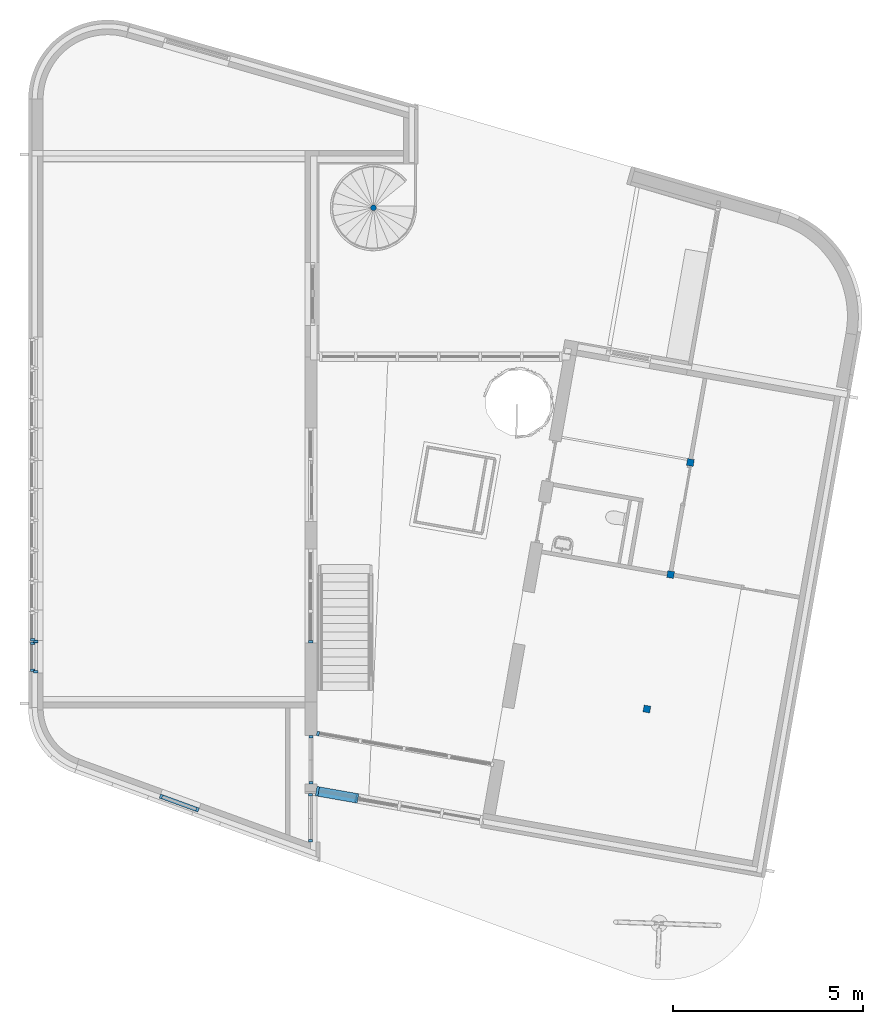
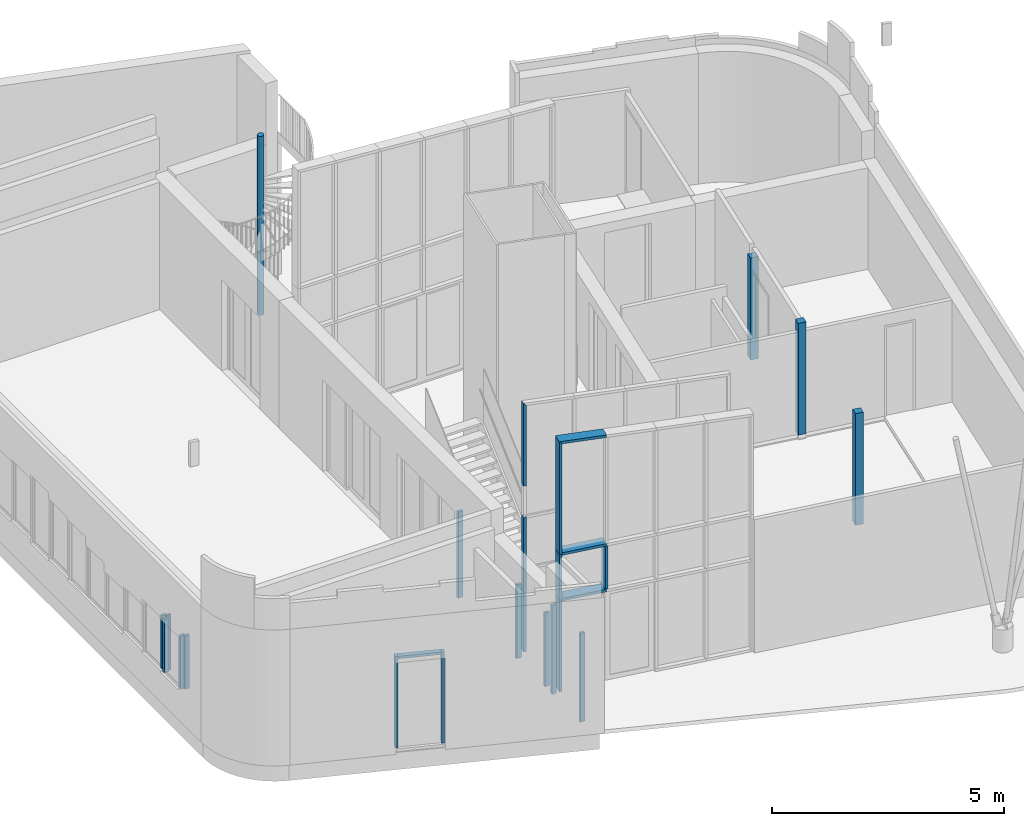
# One storey, part 1 of 21: 24 members, 4 columns, 10 elements without a shape of their own.
"""IFC2X3 building model written with IfcOpenShell, lengths in millimetres."""

from ifc_helpers import new_model, entity, si_unit, converted_unit, derived_unit, direction, frame, frame_2d, origin, origin_2d_with_axis, place, context, subcontext, project, spatial, polyline, rectangle, circle, outline, extrude, clip, halfspace, source, transform, mapped, material, type_object, type_shapes, element, aggregate, save


model = new_model("IFC2X3")

# Units and contexts
model_context = context("Model", 3, precision=0.01, world=origin(), true_north=direction((6.12303176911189e-17, 1.0)))
body_context = subcontext(model_context, "Body", "Model", "MODEL_VIEW")
ifc_project = project(units=[si_unit("LENGTHUNIT", "METRE", prefix="MILLI"), si_unit("AREAUNIT", "SQUARE_METRE"), si_unit("VOLUMEUNIT", "CUBIC_METRE"), converted_unit("PLANEANGLEUNIT", "DEGREE", entity("IfcRatioMeasure", 0.0174532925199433), si_unit("PLANEANGLEUNIT", "RADIAN"), dimensions=[0, 0, 0, 0, 0, 0, 0]), si_unit("MASSUNIT", "GRAM", prefix="KILO"), derived_unit("MASSDENSITYUNIT", [(si_unit("MASSUNIT", "GRAM", prefix="KILO"), 1), (si_unit("LENGTHUNIT", "METRE"), -3)]), si_unit("TIMEUNIT", "SECOND"), si_unit("FREQUENCYUNIT", "HERTZ"), si_unit("THERMODYNAMICTEMPERATUREUNIT", "DEGREE_CELSIUS"), derived_unit("THERMALTRANSMITTANCEUNIT", [(si_unit("MASSUNIT", "GRAM", prefix="KILO"), 1), (si_unit("THERMODYNAMICTEMPERATUREUNIT", "KELVIN"), -1), (si_unit("TIMEUNIT", "SECOND"), -3)]), derived_unit("VOLUMETRICFLOWRATEUNIT", [(si_unit("LENGTHUNIT", "METRE"), 3), (si_unit("TIMEUNIT", "SECOND"), -1)]), si_unit("ELECTRICCURRENTUNIT", "AMPERE"), si_unit("ELECTRICVOLTAGEUNIT", "VOLT"), si_unit("POWERUNIT", "WATT"), si_unit("FORCEUNIT", "NEWTON", prefix="KILO"), si_unit("ILLUMINANCEUNIT", "LUX"), si_unit("LUMINOUSFLUXUNIT", "LUMEN"), si_unit("LUMINOUSINTENSITYUNIT", "CANDELA"), derived_unit("USERDEFINED", [(si_unit("MASSUNIT", "GRAM", prefix="KILO"), -1), (si_unit("LENGTHUNIT", "METRE"), -2), (si_unit("TIMEUNIT", "SECOND"), 3), (si_unit("LUMINOUSFLUXUNIT", "LUMEN"), 1)]), derived_unit("LINEARVELOCITYUNIT", [(si_unit("LENGTHUNIT", "METRE"), 1), (si_unit("TIMEUNIT", "SECOND"), -1)]), si_unit("PRESSUREUNIT", "PASCAL"), derived_unit("USERDEFINED", [(si_unit("LENGTHUNIT", "METRE"), -2), (si_unit("MASSUNIT", "GRAM", prefix="KILO"), 1), (si_unit("TIMEUNIT", "SECOND"), -2)])], contexts=[model_context])

# Site, building, storey
site_placement = place(None, origin())
site = spatial("IfcSite", under=ifc_project, at=site_placement, Name="<Kadaster Gemeente>;<Kadaster nummer>;<Kadaster sectie>", CompositionType="ELEMENT")
building_placement = place(site_placement, origin())
building = spatial("IfcBuilding", under=site, at=building_placement, Name="JRCZ Middelburg", CompositionType="ELEMENT")
storey_placement = place(building_placement, origin())
storey = spatial("IfcBuildingStorey", under=building, at=storey_placement, Name="00 begane grond", CompositionType="ELEMENT", Elevation=0.0)

# Columns
ifc_material_1 = material(Name="Softwood, Lumber")
column_type_1 = type_object("IfcColumnType", Name="180x180", PredefinedType="COLUMN")
shared_shape_1 = source(origin(), body_context, "Body", "SweptSolid", [
    extrude(rectangle(XDim=179.999999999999, YDim=180.0, at=frame_2d((-5.25801624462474e-13, -9.2370555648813e-14), x_axis=(1.0, 0.0))), frame((26065.8161517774, 9819.7630392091, 0.0), z_axis=(0.0, 0.0, 1.0), x_axis=(0.173648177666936, 0.984807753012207, 0.0)), (0.0, 0.0, 1.0), 2936.0),
])
type_shapes(column_type_1, [shared_shape_1])
column_1_placement = place(storey_placement, origin())
element("IfcColumn", 1, at=column_1_placement, inside=storey, type_object=column_type_1, material=ifc_material_1, Name="M_Timber-Column:180x180", ObjectType="M_Timber-Column:180x180", context=body_context, shape_type="MappedRepresentation", body=[
    mapped(shared_shape_1, transform((0.0, 0.0, 0.0), scale=1.0)),
])
column_type_2 = type_object("IfcColumnType", Name="180x180", PredefinedType="COLUMN")
shared_shape_2 = source(origin(), body_context, "Body", "SweptSolid", [
    extrude(rectangle(XDim=179.999999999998, YDim=180.0, at=frame_2d((7.53175299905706e-13, -4.2632564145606e-12), x_axis=(1.0, 0.0))), frame((26690.9495913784, 13365.070950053, 0.0), z_axis=(0.0, 0.0, 1.0), x_axis=(0.173648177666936, 0.984807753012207, 0.0)), (0.0, 0.0, 1.0), 2936.0),
])
type_shapes(column_type_2, [shared_shape_2])
column_2_placement = place(storey_placement, origin())
element("IfcColumn", 2, at=column_2_placement, inside=storey, type_object=column_type_2, material=ifc_material_1, Name="M_Timber-Column:180x180", ObjectType="M_Timber-Column:180x180", context=body_context, shape_type="MappedRepresentation", body=[
    mapped(shared_shape_2, transform((0.0, 0.0, 0.0), scale=1.0)),
])
column_type_3 = type_object("IfcColumnType", Name="180x180", PredefinedType="COLUMN")
shared_shape_3 = source(origin(), body_context, "Body", "SweptSolid", [
    extrude(rectangle(XDim=180.0, YDim=180.0, at=origin_2d_with_axis()), frame((0.0, 0.0, 0.0), z_axis=(0.0, 0.0, 1.0), x_axis=(0.0, -1.0, 0.0)), (0.0, 0.0, 1.0), 2680.0),
])
type_shapes(column_type_3, [shared_shape_3])
column_3_placement = place(storey_placement, frame((27211.8941243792, 16319.4942090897, 0.0), z_axis=(0.0, 0.0, 1.0), x_axis=(0.984807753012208, -0.173648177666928, 0.0)))
element("IfcColumn", 3, at=column_3_placement, inside=storey, type_object=column_type_3, material=ifc_material_1, Name="M_Timber-Column:180x180", ObjectType="M_Timber-Column:180x180", context=body_context, shape_type="MappedRepresentation", body=[
    mapped(shared_shape_3, transform((0.0, 0.0, 0.0), scale=1.0)),
])
column_type_4 = type_object("IfcColumnType", Name="RBM_24_ST_kolom_wenteltrap", PredefinedType="COLUMN")
shared_shape_4 = source(origin(), body_context, "Body", "SweptSolid", [
    extrude(circle(Radius=75.0, at=frame_2d((-4.22994972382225e-15, 1.24171240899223e-13), x_axis=(1.0, 0.0))), frame((0.0, 0.0, 0.0), z_axis=(0.0, 0.0, 1.0), x_axis=(-1.0, 0.0, 0.0)), (0.0, 0.0, 1.0), 4700.0),
])
type_shapes(column_type_4, [shared_shape_4])
column_4_placement = place(storey_placement, frame((18857.6425428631, 23034.0008011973, 0.0)))
element("IfcColumn", 4, at=column_4_placement, inside=storey, type_object=column_type_4, Name="RBM_74_kolom_wenteltrap:RBM_24_ST_kolom_wenteltrap", ObjectType="RBM_74_kolom_wenteltrap:RBM_24_ST_kolom_wenteltrap", context=body_context, shape_type="MappedRepresentation", body=[
    mapped(shared_shape_4, transform((0.0, 0.0, 0.0), scale=1.0)),
])

# Curtain wall, members
curtain_wall_type_1 = type_object("IfcCurtainWallType", Name="Curtain Wall:vliesgevel B", PredefinedType="NOTDEFINED")
curtain_wall_1_placement = place(storey_placement, origin())
curtain_wall_1 = element("IfcCurtainWall", 5, at=curtain_wall_1_placement, inside=storey, type_object=curtain_wall_type_1, Name="Curtain Wall:vliesgevel B", ObjectType="Curtain Wall:vliesgevel B")
ifc_material_2 = material(Name="RBM_i2_binnenkozijn")
member_type_1 = type_object("IfcMemberType", Name="32_CWM_067x114", PredefinedType="MEMBER")
shared_shape_5 = source(origin(), body_context, "Body", "Clipping", [
    clip(extrude(rectangle(XDim=113.999999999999, YDim=67.0, at=origin_2d_with_axis()), frame((-33.5, 0.0, -2177.66666666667), z_axis=(0.0, 0.0, 1.0), x_axis=(0.0, -1.0, 0.0)), (0.0, 0.0, 1.0), 2177.66666666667), halfspace(frame((0.0, -304.799999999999, 0.0), z_axis=(-0.73233970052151, 0.0, 0.680939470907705), x_axis=(-0.680939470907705, 0.0, -0.73233970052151)), False)),
])
type_shapes(member_type_1, [shared_shape_5])
member_1_placement = place(storey_placement, frame((17362.2500000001, 9178.37735087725, 6600.0), z_axis=(0.0, 0.0, 1.0), x_axis=(-0.984807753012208, 0.173648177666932, 0.0)))
member_1 = element("IfcMember", 6, at=member_1_placement, type_object=member_type_1, material=ifc_material_2, Name="Rectangular Mullion:32_CWM_067x114", ObjectType="Rectangular Mullion:32_CWM_067x114", context=body_context, shape_type="MappedRepresentation", body=[
    mapped(shared_shape_5, transform((0.0, 0.0, 0.0), scale=1.0)),
])
member_type_2 = type_object("IfcMemberType", Name="32_CWM_067x114", PredefinedType="MEMBER")
shared_shape_6 = source(origin(), body_context, "Body", "SweptSolid", [
    extrude(rectangle(XDim=113.999999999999, YDim=67.0, at=origin_2d_with_axis()), frame((-33.5, 0.0, -2177.66666666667), z_axis=(0.0, 0.0, 1.0), x_axis=(0.0, -1.0, 0.0)), (0.0, 0.0, 1.0), 2177.66666666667),
])
type_shapes(member_type_2, [shared_shape_6])
member_2_placement = place(storey_placement, frame((17362.2500000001, 9178.37735087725, 2244.66666666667), z_axis=(0.0, 0.0, 1.0), x_axis=(-0.984807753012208, 0.173648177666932, 0.0)))
member_2 = element("IfcMember", 7, at=member_2_placement, type_object=member_type_2, material=ifc_material_2, Name="Rectangular Mullion:32_CWM_067x114", ObjectType="Rectangular Mullion:32_CWM_067x114", context=body_context, shape_type="MappedRepresentation", body=[
    mapped(shared_shape_6, transform((0.0, 0.0, 0.0), scale=1.0)),
])
member_type_3 = type_object("IfcMemberType", Name="32_CWM_067x114", PredefinedType="MEMBER")
shared_shape_7 = source(origin(), body_context, "Body", "SweptSolid", [
    extrude(rectangle(XDim=113.999999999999, YDim=67.0, at=origin_2d_with_axis()), frame((-33.5, 0.0, -1357.66666666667), z_axis=(0.0, 0.0, 1.0), x_axis=(0.0, -1.0, 0.0)), (0.0, 0.0, 1.0), 1357.66666666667),
])
type_shapes(member_type_3, [shared_shape_7])
member_3_placement = place(storey_placement, frame((17362.2500000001, 9178.37735087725, 3602.33333333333), z_axis=(0.0, 0.0, 1.0), x_axis=(-0.984807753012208, 0.173648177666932, 0.0)))
member_3 = element("IfcMember", 8, at=member_3_placement, type_object=member_type_3, material=ifc_material_2, Name="Rectangular Mullion:32_CWM_067x114", ObjectType="Rectangular Mullion:32_CWM_067x114", context=body_context, shape_type="MappedRepresentation", body=[
    mapped(shared_shape_7, transform((0.0, 0.0, 0.0), scale=1.0)),
])
aggregate(curtain_wall_1, [member_1, member_2, member_3])

# Curtain wall, member
curtain_wall_type_2 = type_object("IfcCurtainWallType", Name="Curtain Wall:NLRS_32_CW_067x114", PredefinedType="NOTDEFINED")
curtain_wall_2_placement = place(storey_placement, origin())
curtain_wall_2 = element("IfcCurtainWall", 9, at=curtain_wall_2_placement, inside=storey, type_object=curtain_wall_type_2, Name="Curtain Wall:NLRS_32_CW_067x114", ObjectType="Curtain Wall:NLRS_32_CW_067x114")
member_type_4 = type_object("IfcMemberType", Name="32_CWM_067x114", PredefinedType="MEMBER")
shared_shape_8 = source(origin(), body_context, "Body", "SweptSolid", [
    extrude(rectangle(XDim=113.999999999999, YDim=67.0, at=origin_2d_with_axis()), frame((-33.5, 0.0, -2266.0), z_axis=(0.0, 0.0, 1.0), x_axis=(0.0, -1.0, 0.0)), (0.0, 0.0, 1.0), 2266.0),
])
type_shapes(member_type_4, [shared_shape_8])
member_4_placement = place(storey_placement, frame((17203.0, 11566.4999996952, 2333.0), z_axis=(0.0, 0.0, 1.0), x_axis=(0.0, -1.0, 0.0)))
member_4 = element("IfcMember", 10, at=member_4_placement, type_object=member_type_4, material=ifc_material_2, Name="Rectangular Mullion:32_CWM_067x114", ObjectType="Rectangular Mullion:32_CWM_067x114", context=body_context, shape_type="MappedRepresentation", body=[
    mapped(shared_shape_8, transform((0.0, 0.0, 0.0), scale=1.0)),
])
aggregate(curtain_wall_2, [member_4])

curtain_wall_type_3 = type_object("IfcCurtainWallType", Name="Curtain Wall:NLRS_32_CW_067x114", PredefinedType="NOTDEFINED")
curtain_wall_3_placement = place(storey_placement, origin())
curtain_wall_3 = element("IfcCurtainWall", 11, at=curtain_wall_3_placement, inside=storey, type_object=curtain_wall_type_3, Name="Curtain Wall:NLRS_32_CW_067x114", ObjectType="Curtain Wall:NLRS_32_CW_067x114")
member_type_5 = type_object("IfcMemberType", Name="32_CWM_067x114", PredefinedType="MEMBER")
shared_shape_9 = source(origin(), body_context, "Body", "SweptSolid", [
    extrude(rectangle(XDim=113.999999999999, YDim=67.0, at=origin_2d_with_axis()), frame((-33.5, 0.0, -2333.0), z_axis=(0.0, 0.0, 1.0), x_axis=(0.0, -1.0, 0.0)), (0.0, 0.0, 1.0), 2333.0),
])
type_shapes(member_type_5, [shared_shape_9])
member_5_placement = place(storey_placement, frame((17200.0, 6311.96216345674, 2333.0), z_axis=(0.0, 0.0, 1.0), x_axis=(0.0, -1.0, 0.0)))
member_5 = element("IfcMember", 12, at=member_5_placement, type_object=member_type_5, material=ifc_material_2, Name="Rectangular Mullion:32_CWM_067x114", ObjectType="Rectangular Mullion:32_CWM_067x114", context=body_context, shape_type="MappedRepresentation", body=[
    mapped(shared_shape_9, transform((0.0, 0.0, 0.0), scale=1.0)),
])

# Curtain wall, members
curtain_wall_4_placement = place(storey_placement, origin())
curtain_wall_4 = element("IfcCurtainWall", 13, at=curtain_wall_4_placement, inside=storey, type_object=curtain_wall_type_2, Name="Curtain Wall:NLRS_32_CW_067x114", ObjectType="Curtain Wall:NLRS_32_CW_067x114")
member_type_6 = type_object("IfcMemberType", Name="32_CWM_067x114", PredefinedType="MEMBER")
shared_shape_10 = source(origin(), body_context, "Body", "SweptSolid", [
    extrude(rectangle(XDim=113.999999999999, YDim=67.0, at=origin_2d_with_axis()), frame((-33.5, 0.0, -1933.0), z_axis=(0.0, 0.0, 1.0), x_axis=(0.0, -1.0, 0.0)), (0.0, 0.0, 1.0), 1933.0),
])
type_shapes(member_type_6, [shared_shape_10])
member_6_placement = place(storey_placement, frame((17209.2500000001, 9128.74078602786, 0.0), z_axis=(0.0, 0.0, -1.0), x_axis=(0.0, 1.0, 0.0)))
member_6 = element("IfcMember", 14, at=member_6_placement, type_object=member_type_6, material=ifc_material_2, Name="Rectangular Mullion:32_CWM_067x114", ObjectType="Rectangular Mullion:32_CWM_067x114", context=body_context, shape_type="MappedRepresentation", body=[
    mapped(shared_shape_10, transform((0.0, 0.0, 0.0), scale=1.0)),
])
member_type_7 = type_object("IfcMemberType", Name="32_CWM_067x114", PredefinedType="MEMBER")
shared_shape_11 = source(origin(), body_context, "Body", "SweptSolid", [
    extrude(rectangle(XDim=113.999999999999, YDim=67.0, at=origin_2d_with_axis()), frame((-33.5, 0.0, -1933.0), z_axis=(0.0, 0.0, 1.0), x_axis=(0.0, -1.0, 0.0)), (0.0, 0.0, 1.0), 1933.0),
])
type_shapes(member_type_7, [shared_shape_11])
member_7_placement = place(storey_placement, frame((17209.2500000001, 7848.74078602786, 1933.0), z_axis=(0.0, 0.0, 1.0), x_axis=(0.0, -1.0, 0.0)))
member_7 = element("IfcMember", 15, at=member_7_placement, type_object=member_type_7, material=ifc_material_2, Name="Rectangular Mullion:32_CWM_067x114", ObjectType="Rectangular Mullion:32_CWM_067x114", context=body_context, shape_type="MappedRepresentation", body=[
    mapped(shared_shape_11, transform((0.0, 0.0, 0.0), scale=1.0)),
])
aggregate(curtain_wall_4, [member_6, member_7])

curtain_wall_type_4 = type_object("IfcCurtainWallType", Name="Curtain Wall:vliesgevel A", PredefinedType="NOTDEFINED")
curtain_wall_5_placement = place(storey_placement, origin())
curtain_wall_5 = element("IfcCurtainWall", 16, at=curtain_wall_5_placement, inside=storey, type_object=curtain_wall_type_4, Name="Curtain Wall:vliesgevel A", ObjectType="Curtain Wall:vliesgevel A")
ifc_material_3 = material(Name="RBM_a_kozijn licht")
member_type_8 = type_object("IfcMemberType", Name="31_CWM_067x114 vliesgevel", PredefinedType="MEMBER")
shared_shape_12 = source(origin(), body_context, "Body", "SweptSolid", [
    extrude(rectangle(XDim=250.0, YDim=67.0, at=origin_2d_with_axis()), frame((-33.5, -57.0, -1200.0), z_axis=(0.0, 0.0, 1.0), x_axis=(0.0, -1.0, 0.0)), (0.0, 0.0, 1.0), 1200.0),
])
type_shapes(member_type_8, [shared_shape_12])
member_8_placement = place(storey_placement, frame((17357.3594801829, 7712.96365390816, 2400.0), z_axis=(0.0, 0.0, -1.0), x_axis=(-0.984807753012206, 0.173648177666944, 0.0)))
member_8 = element("IfcMember", 17, at=member_8_placement, type_object=member_type_8, material=ifc_material_3, Name="Rectangular Mullion:31_CWM_067x114 vliesgevel", ObjectType="Rectangular Mullion:31_CWM_067x114 vliesgevel", context=body_context, shape_type="MappedRepresentation", body=[
    mapped(shared_shape_12, transform((0.0, 0.0, 0.0), scale=1.0)),
])
member_type_9 = type_object("IfcMemberType", Name="31_CWM_067x114 vliesgevel", PredefinedType="MEMBER")
shared_shape_13 = source(origin(), body_context, "Body", "SweptSolid", [
    extrude(rectangle(XDim=250.0, YDim=67.0, at=origin_2d_with_axis()), frame((0.0, -57.0, -1133.0), z_axis=(0.0, 0.0, 1.0), x_axis=(0.0, -1.0, 0.0)), (0.0, 0.0, 1.0), 1133.0),
])
type_shapes(member_type_9, [shared_shape_13])
member_9_placement = place(storey_placement, frame((18426.5037211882, 7524.44467794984, 2433.5), z_axis=(0.0, 0.0, -1.0), x_axis=(-0.984807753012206, 0.173648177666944, 0.0)))
member_9 = element("IfcMember", 18, at=member_9_placement, type_object=member_type_9, material=ifc_material_3, Name="Rectangular Mullion:31_CWM_067x114 vliesgevel", ObjectType="Rectangular Mullion:31_CWM_067x114 vliesgevel", context=body_context, shape_type="MappedRepresentation", body=[
    mapped(shared_shape_13, transform((0.0, 0.0, 0.0), scale=1.0)),
])

# Member
member_type_10 = type_object("IfcMemberType", Name="32_CWM_067x114", PredefinedType="MEMBER")
shared_shape_14 = source(origin(), body_context, "Body", "SweptSolid", [
    extrude(rectangle(XDim=113.999999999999, YDim=67.0, at=origin_2d_with_axis()), frame((-33.5, 0.0, -2333.0), z_axis=(0.0, 0.0, 1.0), x_axis=(0.0, -1.0, 0.0)), (0.0, 0.0, 1.0), 2333.0),
])
type_shapes(member_type_10, [shared_shape_14])
member_10_placement = place(storey_placement, frame((17200.0, 7591.96216345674, 0.0), z_axis=(0.0, 0.0, -1.0), x_axis=(0.0, 1.0, 0.0)))
member_10 = element("IfcMember", 19, at=member_10_placement, type_object=member_type_10, material=ifc_material_2, Name="Rectangular Mullion:32_CWM_067x114", ObjectType="Rectangular Mullion:32_CWM_067x114", context=body_context, shape_type="MappedRepresentation", body=[
    mapped(shared_shape_14, transform((0.0, 0.0, 0.0), scale=1.0)),
])

aggregate(curtain_wall_3, [member_10, member_5])

# Curtain wall, members
curtain_wall_type_5 = type_object("IfcCurtainWallType", Name="Curtain Wall:NLRS_31_CW_Ontwerpkozijn 067x114", PredefinedType="NOTDEFINED")
curtain_wall_6_placement = place(storey_placement, origin())
curtain_wall_6 = element("IfcCurtainWall", 20, at=curtain_wall_6_placement, inside=storey, type_object=curtain_wall_type_5, Name="Curtain Wall:NLRS_31_CW_Ontwerpkozijn 067x114", ObjectType="Curtain Wall:NLRS_31_CW_Ontwerpkozijn 067x114")
ifc_material_4 = material(Name="RBM_a_kozijn")
member_type_11 = type_object("IfcMemberType", Name="31_CWM_067x114", PredefinedType="MEMBER")
shared_shape_15 = source(origin(), body_context, "Body", "SweptSolid", [
    extrude(rectangle(XDim=113.999999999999, YDim=67.0, at=origin_2d_with_axis()), frame((-33.5, 57.0, -950.0), z_axis=(0.0, 0.0, 1.0), x_axis=(0.0, -1.0, 0.0)), (0.0, 0.0, 1.0), 949.999999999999),
])
type_shapes(member_type_11, [shared_shape_15])
member_11_placement = place(storey_placement, frame((14204.9653132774, 7232.42985900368, 2400.0), z_axis=(0.939692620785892, -0.342020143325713, 0.0), x_axis=(0.0, 0.0, 1.0)))
member_11 = element("IfcMember", 21, at=member_11_placement, type_object=member_type_11, material=ifc_material_4, Name="Rectangular Mullion:31_CWM_067x114", ObjectType="Rectangular Mullion:31_CWM_067x114", context=body_context, shape_type="MappedRepresentation", body=[
    mapped(shared_shape_15, transform((0.0, 0.0, 0.0), scale=1.0)),
])
member_type_12 = type_object("IfcMemberType", Name="31_CWM_067x114", PredefinedType="MEMBER")
shared_shape_16 = source(origin(), body_context, "Body", "SweptSolid", [
    extrude(rectangle(XDim=113.999999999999, YDim=67.0, at=origin_2d_with_axis()), frame((-33.5, 57.0, -2400.0), z_axis=(0.0, 0.0, 1.0), x_axis=(0.0, -1.0, 0.0)), (0.0, 0.0, 1.0), 2400.0),
])
type_shapes(member_type_12, [shared_shape_16])
member_12_placement = place(storey_placement, frame((14267.92471887, 7209.51450940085, 0.0), z_axis=(0.0, 0.0, -1.0), x_axis=(0.939692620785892, -0.342020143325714, 0.0)))
member_12 = element("IfcMember", 22, at=member_12_placement, type_object=member_type_12, material=ifc_material_4, Name="Rectangular Mullion:31_CWM_067x114", ObjectType="Rectangular Mullion:31_CWM_067x114", context=body_context, shape_type="MappedRepresentation", body=[
    mapped(shared_shape_16, transform((0.0, 0.0, 0.0), scale=1.0)),
])
member_type_13 = type_object("IfcMemberType", Name="31_CWM_067x114", PredefinedType="MEMBER")
shared_shape_17 = source(origin(), body_context, "Body", "SweptSolid", [
    extrude(rectangle(XDim=113.999999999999, YDim=67.0, at=origin_2d_with_axis()), frame((-33.5, 57.0, -2400.0), z_axis=(0.0, 0.0, 1.0), x_axis=(0.0, -1.0, 0.0)), (0.0, 0.0, 1.0), 2400.0),
])
type_shapes(member_type_13, [shared_shape_17])
member_13_placement = place(storey_placement, frame((13249.2979179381, 7580.26434476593, 2400.0), z_axis=(0.0, 0.0, 1.0), x_axis=(-0.939692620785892, 0.342020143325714, 0.0)))
member_13 = element("IfcMember", 23, at=member_13_placement, type_object=member_type_13, material=ifc_material_4, Name="Rectangular Mullion:31_CWM_067x114", ObjectType="Rectangular Mullion:31_CWM_067x114", context=body_context, shape_type="MappedRepresentation", body=[
    mapped(shared_shape_17, transform((0.0, 0.0, 0.0), scale=1.0)),
])
aggregate(curtain_wall_6, [member_11, member_12, member_13])

curtain_wall_type_6 = type_object("IfcCurtainWallType", Name="Curtain Wall:NLRS_31_CW_hsb rek 63x196mm h.o.h. 800mm", PredefinedType="NOTDEFINED")
curtain_wall_7_placement = place(storey_placement, origin())
curtain_wall_7 = element("IfcCurtainWall", 24, at=curtain_wall_7_placement, inside=storey, type_object=curtain_wall_type_6, Name="Curtain Wall:NLRS_31_CW_hsb rek 63x196mm h.o.h. 800mm", ObjectType="Curtain Wall:NLRS_31_CW_hsb rek 63x196mm h.o.h. 800mm")
member_type_14 = type_object("IfcMemberType", Name="32_CWM_067x114", PredefinedType="MEMBER")
shared_shape_18 = source(origin(), body_context, "Body", "SweptSolid", [
    extrude(rectangle(XDim=66.9999999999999, YDim=114.0, at=frame_2d((1.08357767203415e-12, 1.08002495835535e-12), x_axis=(1.0, 0.0))), frame((9956.0, 11598.0, 700.0), z_axis=(0.0, 0.0, 1.0), x_axis=(0.0, -1.0, 0.0)), (0.0, 0.0, 1.0), 1400.0),
])
type_shapes(member_type_14, [shared_shape_18])
member_14_placement = place(storey_placement, origin())
member_14 = element("IfcMember", 25, at=member_14_placement, type_object=member_type_14, material=ifc_material_2, Name="Rectangular Mullion:32_CWM_067x114", ObjectType="Rectangular Mullion:32_CWM_067x114", context=body_context, shape_type="MappedRepresentation", body=[
    mapped(shared_shape_18, transform((0.0, 0.0, 0.0), scale=1.0)),
])
member_type_15 = type_object("IfcMemberType", Name="32_CWM_067x114", PredefinedType="MEMBER")
shared_shape_19 = source(origin(), body_context, "Body", "SweptSolid", [
    extrude(rectangle(XDim=66.9999999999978, YDim=114.0, at=frame_2d((1.08357767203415e-12, 1.08002495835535e-12), x_axis=(1.0, 0.0))), frame((9956.0, 10802.0, 700.0), z_axis=(0.0, 0.0, 1.0), x_axis=(0.0, -1.0, 0.0)), (0.0, 0.0, 1.0), 1400.0),
])
type_shapes(member_type_15, [shared_shape_19])
member_15_placement = place(storey_placement, origin())
member_15 = element("IfcMember", 26, at=member_15_placement, type_object=member_type_15, material=ifc_material_2, Name="Rectangular Mullion:32_CWM_067x114", ObjectType="Rectangular Mullion:32_CWM_067x114", context=body_context, shape_type="MappedRepresentation", body=[
    mapped(shared_shape_19, transform((0.0, 0.0, 0.0), scale=1.0)),
])
aggregate(curtain_wall_7, [member_14, member_15])

curtain_wall_type_7 = type_object("IfcCurtainWallType", Name="Curtain Wall:NLRS_31_CW_Ontwerpkozijn 067x114 2", PredefinedType="NOTDEFINED")
curtain_wall_8_placement = place(storey_placement, origin())
curtain_wall_8 = element("IfcCurtainWall", 27, at=curtain_wall_8_placement, inside=storey, type_object=curtain_wall_type_7, Name="Curtain Wall:NLRS_31_CW_Ontwerpkozijn 067x114 2", ObjectType="Curtain Wall:NLRS_31_CW_Ontwerpkozijn 067x114 2")
member_type_16 = type_object("IfcMemberType", Name="31_CWM_067x114", PredefinedType="MEMBER")
shared_shape_20 = source(origin(), body_context, "Body", "SweptSolid", [
    extrude(outline(polyline([(-37.0, -65.3333333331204), (30.0, -65.3333333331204), (30.0, 16.6666666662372), (7.0, 16.6666666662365), (7.0, 48.6666666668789), (-37.0, 48.6666666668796), (-37.0, -65.3333333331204)])), frame((9882.33333333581, 10842.4999999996, 700.0), z_axis=(0.0, 0.0, 1.0), x_axis=(0.0, -1.0, 0.0)), (0.0, 0.0, 1.0), 1400.0),
])
type_shapes(member_type_16, [shared_shape_20])
member_16_placement = place(storey_placement, origin())
member_16 = element("IfcMember", 28, at=member_16_placement, type_object=member_type_16, material=ifc_material_4, Name="Rectangular Mullion:31_CWM_067x114", ObjectType="Rectangular Mullion:31_CWM_067x114", context=body_context, shape_type="MappedRepresentation", body=[
    mapped(shared_shape_20, transform((0.0, 0.0, 0.0), scale=1.0)),
])
member_type_17 = type_object("IfcMemberType", Name="31_CWM_067x114", PredefinedType="MEMBER")
shared_shape_21 = source(origin(), body_context, "Body", "SweptSolid", [
    extrude(outline(polyline([(-30.0, -65.3333333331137), (37.0, -65.3333333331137), (37.0, 48.6666666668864), (-7.0, 48.6666666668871), (-7.0, 16.6666666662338), (-30.0, 16.6666666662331), (-30.0, -65.3333333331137)])), frame((9882.33333333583, 11557.4999999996, 700.0), z_axis=(0.0, 0.0, 1.0), x_axis=(0.0, -1.0, 0.0)), (0.0, 0.0, 1.0), 1400.0),
])
type_shapes(member_type_17, [shared_shape_21])
member_17_placement = place(storey_placement, origin())
member_17 = element("IfcMember", 29, at=member_17_placement, type_object=member_type_17, material=ifc_material_4, Name="Rectangular Mullion:31_CWM_067x114", ObjectType="Rectangular Mullion:31_CWM_067x114", context=body_context, shape_type="MappedRepresentation", body=[
    mapped(shared_shape_21, transform((0.0, 0.0, 0.0), scale=1.0)),
])
aggregate(curtain_wall_8, [member_16, member_17])

# Curtain wall, member
curtain_wall_9_placement = place(storey_placement, origin())
curtain_wall_9 = element("IfcCurtainWall", 30, at=curtain_wall_9_placement, inside=storey, type_object=curtain_wall_type_6, Name="Curtain Wall:NLRS_31_CW_hsb rek 63x196mm h.o.h. 800mm", ObjectType="Curtain Wall:NLRS_31_CW_hsb rek 63x196mm h.o.h. 800mm")
member_type_18 = type_object("IfcMemberType", Name="32_CWM_067x114", PredefinedType="MEMBER")
shared_shape_22 = source(origin(), body_context, "Body", "SweptSolid", [
    extrude(rectangle(XDim=66.9999999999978, YDim=114.0, at=frame_2d((1.08357767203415e-12, 1.08002495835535e-12), x_axis=(1.0, 0.0))), frame((9956.0, 11602.0, 750.0), z_axis=(0.0, 0.0, 1.0), x_axis=(0.0, -1.0, 0.0)), (0.0, 0.0, 1.0), 1400.0),
])
type_shapes(member_type_18, [shared_shape_22])
member_18_placement = place(storey_placement, origin())
member_18 = element("IfcMember", 31, at=member_18_placement, type_object=member_type_18, material=ifc_material_2, Name="Rectangular Mullion:32_CWM_067x114", ObjectType="Rectangular Mullion:32_CWM_067x114", context=body_context, shape_type="MappedRepresentation", body=[
    mapped(shared_shape_22, transform((0.0, 0.0, 0.0), scale=1.0)),
])
aggregate(curtain_wall_9, [member_18])

curtain_wall_10_placement = place(storey_placement, origin())
curtain_wall_10 = element("IfcCurtainWall", 32, at=curtain_wall_10_placement, inside=storey, type_object=curtain_wall_type_7, Name="Curtain Wall:NLRS_31_CW_Ontwerpkozijn 067x114 2", ObjectType="Curtain Wall:NLRS_31_CW_Ontwerpkozijn 067x114 2")
member_type_19 = type_object("IfcMemberType", Name="31_CWM_067x114", PredefinedType="MEMBER")
shared_shape_23 = source(origin(), body_context, "Body", "SweptSolid", [
    extrude(rectangle(XDim=66.9999999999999, YDim=114.0, at=frame_2d((1.08357767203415e-12, -1.08002495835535e-12), x_axis=(1.0, 0.0))), frame((9874.0, 11646.0, 750.0), z_axis=(0.0, 0.0, 1.0), x_axis=(0.0, -1.0, 0.0)), (0.0, 0.0, 1.0), 1400.0),
])
type_shapes(member_type_19, [shared_shape_23])
member_19_placement = place(storey_placement, origin())
member_19 = element("IfcMember", 33, at=member_19_placement, type_object=member_type_19, material=ifc_material_4, Name="Rectangular Mullion:31_CWM_067x114", ObjectType="Rectangular Mullion:31_CWM_067x114", context=body_context, shape_type="MappedRepresentation", body=[
    mapped(shared_shape_23, transform((0.0, 0.0, 0.0), scale=1.0)),
])
aggregate(curtain_wall_10, [member_19])

# Member
member_type_20 = type_object("IfcMemberType", Name="31_CWM_067x114 vliesgevel", PredefinedType="MEMBER")
shared_shape_24 = source(origin(), body_context, "Body", "Clipping", [
    clip(extrude(rectangle(XDim=250.0, YDim=67.0, at=origin_2d_with_axis()), frame((-33.5, -57.0, -1088.68658802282), z_axis=(0.0, 0.0, 1.0), x_axis=(0.0, -1.0, 0.0)), (0.0, 0.0, 1.0), 1088.68658802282), halfspace(frame((0.0, -304.8, 0.0), z_axis=(-0.733072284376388, 0.0, 0.680150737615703), x_axis=(-0.680150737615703, 0.0, -0.733072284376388)), False)),
])
type_shapes(member_type_20, [shared_shape_24])
member_20_placement = place(storey_placement, frame((17357.3594801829, 7712.96365390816, 6564.57479505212), z_axis=(-0.982049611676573, 0.173161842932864, 0.0747899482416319), x_axis=(0.0736537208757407, -0.0129871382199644, 0.997199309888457)))
member_20 = element("IfcMember", 34, at=member_20_placement, type_object=member_type_20, material=ifc_material_3, Name="Rectangular Mullion:31_CWM_067x114 vliesgevel", ObjectType="Rectangular Mullion:31_CWM_067x114 vliesgevel", context=body_context, shape_type="MappedRepresentation", body=[
    mapped(shared_shape_24, transform((0.0, 0.0, 0.0), scale=1.0)),
])

member_type_21 = type_object("IfcMemberType", Name="31_CWM_067x114 vliesgevel", PredefinedType="MEMBER")
shared_shape_25 = source(origin(), body_context, "Body", "SweptSolid", [
    extrude(rectangle(XDim=250.0, YDim=67.0, at=origin_2d_with_axis()), frame((-33.5, -57.0, -2400.0), z_axis=(0.0, 0.0, 1.0), x_axis=(0.0, -1.0, 0.0)), (0.0, 0.0, 1.0), 2400.0),
])
type_shapes(member_type_21, [shared_shape_25])
member_21_placement = place(storey_placement, frame((17357.3594801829, 7712.96365390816, 0.0), z_axis=(0.0, 0.0, -1.0), x_axis=(-0.984807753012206, 0.173648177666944, 0.0)))
member_21 = element("IfcMember", 35, at=member_21_placement, type_object=member_type_21, material=ifc_material_3, Name="Rectangular Mullion:31_CWM_067x114 vliesgevel", ObjectType="Rectangular Mullion:31_CWM_067x114 vliesgevel", context=body_context, shape_type="MappedRepresentation", body=[
    mapped(shared_shape_25, transform((0.0, 0.0, 0.0), scale=1.0)),
])

member_type_22 = type_object("IfcMemberType", Name="31_CWM_067x114 vliesgevel", PredefinedType="MEMBER")
shared_shape_26 = source(origin(), body_context, "Body", "SweptSolid", [
    extrude(rectangle(XDim=250.0, YDim=67.0, at=frame_2d((-3.5527136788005e-14, 0.0), x_axis=(1.0, 0.0))), frame((0.0, -57.0, -1018.63751426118), z_axis=(0.0, 0.0, 1.0), x_axis=(0.0, -1.0, 0.0)), (0.0, 0.0, 1.0), 1018.63751426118),
])
type_shapes(member_type_22, [shared_shape_26])
member_22_placement = place(storey_placement, frame((17423.3415996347, 7701.32922600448, 2400.0), z_axis=(-0.984807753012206, 0.173648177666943, 0.0), x_axis=(0.0, 0.0, 1.0)))
member_22 = element("IfcMember", 36, at=member_22_placement, type_object=member_type_22, material=ifc_material_3, Name="Rectangular Mullion:31_CWM_067x114 vliesgevel", ObjectType="Rectangular Mullion:31_CWM_067x114 vliesgevel", context=body_context, shape_type="MappedRepresentation", body=[
    mapped(shared_shape_26, transform((0.0, 0.0, 0.0), scale=1.0)),
])

member_23_placement = place(storey_placement, frame((17423.3415996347, 7701.32922600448, 3600.0), z_axis=(-0.984807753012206, 0.173648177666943, 0.0), x_axis=(0.0, 0.0, 1.0)))
member_23 = element("IfcMember", 37, at=member_23_placement, type_object=member_type_22, material=ifc_material_3, Name="Rectangular Mullion:31_CWM_067x114 vliesgevel", ObjectType="Rectangular Mullion:31_CWM_067x114 vliesgevel", context=body_context, shape_type="MappedRepresentation", body=[
    mapped(shared_shape_26, transform((0.0, 0.0, 0.0), scale=1.0)),
])

member_type_23 = type_object("IfcMemberType", Name="31_CWM_067x114 vliesgevel", PredefinedType="MEMBER")
shared_shape_27 = source(origin(), body_context, "Body", "Clipping", [
    clip(extrude(rectangle(XDim=250.0, YDim=67.0, at=origin_2d_with_axis()), frame((-33.5, -57.0, -2964.57479505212), z_axis=(0.0, 0.0, 1.0), x_axis=(0.0, -1.0, 0.0)), (0.0, 0.0, 1.0), 2964.57479505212), halfspace(frame((0.0, -304.8, -2964.57479505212), z_axis=(-0.733072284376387, 0.0, -0.680150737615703), x_axis=(-0.680150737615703, 0.0, 0.733072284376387)), False)),
])
type_shapes(member_type_23, [shared_shape_27])
member_24_placement = place(storey_placement, frame((17357.3594801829, 7712.96365390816, 3600.0), z_axis=(0.0, 0.0, -1.0), x_axis=(-0.984807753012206, 0.173648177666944, 0.0)))
member_24 = element("IfcMember", 38, at=member_24_placement, type_object=member_type_23, material=ifc_material_3, Name="Rectangular Mullion:31_CWM_067x114 vliesgevel", ObjectType="Rectangular Mullion:31_CWM_067x114 vliesgevel", context=body_context, shape_type="MappedRepresentation", body=[
    mapped(shared_shape_27, transform((0.0, 0.0, 0.0), scale=1.0)),
])

aggregate(curtain_wall_5, [member_20, member_21, member_8, member_22, member_9, member_24, member_23])

save(model, "model.ifc")
